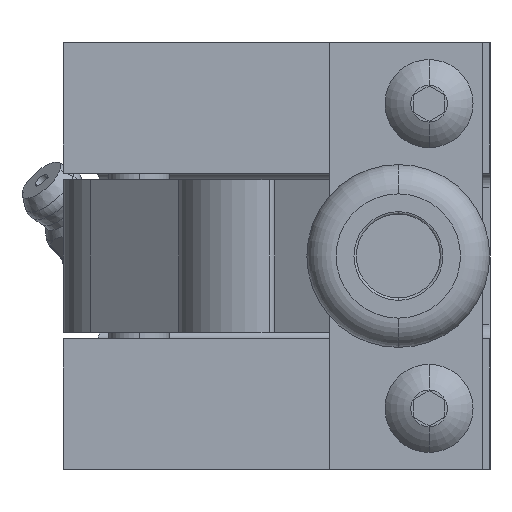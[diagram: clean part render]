
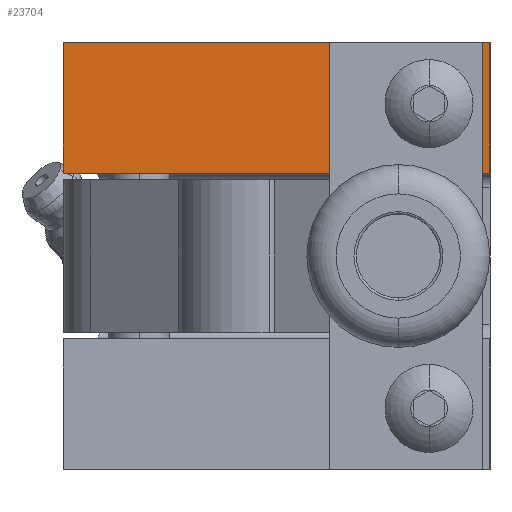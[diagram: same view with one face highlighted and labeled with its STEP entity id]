
A CAD part, left-side view. The second image highlights one B-rep face of the part: STEP entity #23704.
In plain terms, the highlighted planar face has unit normal (-1, 0, 0).
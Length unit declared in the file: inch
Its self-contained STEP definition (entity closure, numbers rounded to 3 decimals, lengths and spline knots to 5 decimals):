
#2780 = DIRECTION ( 'NONE',  ( 0., 0., 1. ) ) ;
#2781 = DIRECTION ( 'NONE',  ( -1., 0., 0. ) ) ;
#2782 = CARTESIAN_POINT ( 'NONE',  ( -1.37552, -0.60195, 0.60961 ) ) ;
#2783 = AXIS2_PLACEMENT_3D ( 'NONE', #2782, #2781, #2780 ) ;
#2784 = CIRCLE ( 'NONE', #2783, 0.0935 ) ;
#2806 = CARTESIAN_POINT ( 'NONE',  ( -1.37552, -0.60195, 0.70311 ) ) ;
#2807 = CARTESIAN_POINT ( 'NONE',  ( -1.37552, -0.60195, 0.51611 ) ) ;
#13006 = DIRECTION ( 'NONE',  ( 0., 0., 1. ) ) ;
#13007 = DIRECTION ( 'NONE',  ( -1., 0., 0. ) ) ;
#13009 = CARTESIAN_POINT ( 'NONE',  ( -1.37552, -0.85195, -0.89039 ) ) ;
#13010 = AXIS2_PLACEMENT_3D ( 'NONE', #13009, #13007, #13006 ) ;
#13011 = PLANE ( 'NONE',  #13010 ) ;
#13034 = AXIS2_PLACEMENT_3D ( 'NONE', #13153, #13152, #13151 ) ;
#13035 = CIRCLE ( 'NONE', #13034, 0.0935 ) ;
#13151 = DIRECTION ( 'NONE',  ( 0., 0., 1. ) ) ;
#13152 = DIRECTION ( 'NONE',  ( -1., 0., 0. ) ) ;
#13153 = CARTESIAN_POINT ( 'NONE',  ( -1.37552, -0.60195, 0.60961 ) ) ;
#13208 = FACE_OUTER_BOUND ( 'NONE', #23802, .T. ) ;
#13210 = FACE_BOUND ( 'NONE', #23678, .T. ) ;
#13327 = DIRECTION ( 'NONE',  ( 0., -1., 0. ) ) ;
#13328 = VECTOR ( 'NONE', #13327, 39.37008 ) ;
#13330 = CARTESIAN_POINT ( 'NONE',  ( -1.37552, -0.85195, 0.85961 ) ) ;
#13331 = LINE ( 'NONE', #13330, #13328 ) ;
#13340 = CARTESIAN_POINT ( 'NONE',  ( -1.37552, -0.85195, 0.85961 ) ) ;
#13343 = DIRECTION ( 'NONE',  ( 0., 0., 1. ) ) ;
#13345 = VECTOR ( 'NONE', #13343, 39.37008 ) ;
#13346 = CARTESIAN_POINT ( 'NONE',  ( -1.37552, -0.85195, -0.89039 ) ) ;
#13348 = LINE ( 'NONE', #13346, #13345 ) ;
#13834 = CARTESIAN_POINT ( 'NONE',  ( -1.37552, 0.89805, 0.85961 ) ) ;
#13965 = DIRECTION ( 'NONE',  ( 0., 0., 1. ) ) ;
#13966 = VECTOR ( 'NONE', #13965, 39.37008 ) ;
#13968 = CARTESIAN_POINT ( 'NONE',  ( -1.37552, 0.89805, -0.89039 ) ) ;
#13970 = LINE ( 'NONE', #13968, #13966 ) ;
#13992 = CARTESIAN_POINT ( 'NONE',  ( -1.37552, 0.89805, 0.32461 ) ) ;
#14011 = CARTESIAN_POINT ( 'NONE',  ( -1.37552, -0.85195, 0.32461 ) ) ;
#14013 = DIRECTION ( 'NONE',  ( 0., 1., 0. ) ) ;
#14014 = VECTOR ( 'NONE', #14013, 39.37008 ) ;
#14015 = CARTESIAN_POINT ( 'NONE',  ( -1.37552, -0.85195, 0.32461 ) ) ;
#14016 = LINE ( 'NONE', #14015, #14014 ) ;
#21272 = VERTEX_POINT ( 'NONE', #2807 ) ;
#21273 = VERTEX_POINT ( 'NONE', #2806 ) ;
#21284 = EDGE_CURVE ( 'NONE', #21272, #21273, #2784, .T. ) ;
#23677 = EDGE_CURVE ( 'NONE', #21273, #21272, #13035, .T. ) ;
#23678 = EDGE_LOOP ( 'NONE', ( #23705, #23801 ) ) ;
#23704 = ADVANCED_FACE ( 'NONE', ( #13210, #13208 ), #13011, .T. ) ;
#23705 = ORIENTED_EDGE ( 'NONE', *, *, #23677, .F. ) ;
#23754 = ORIENTED_EDGE ( 'NONE', *, *, #23755, .T. ) ;
#23755 = EDGE_CURVE ( 'NONE', #23805, #23756, #13348, .T. ) ;
#23756 = VERTEX_POINT ( 'NONE', #13340 ) ;
#23757 = ORIENTED_EDGE ( 'NONE', *, *, #23758, .F. ) ;
#23758 = EDGE_CURVE ( 'NONE', #23821, #23756, #13331, .T. ) ;
#23759 = ORIENTED_EDGE ( 'NONE', *, *, #23820, .F. ) ;
#23801 = ORIENTED_EDGE ( 'NONE', *, *, #21284, .F. ) ;
#23802 = EDGE_LOOP ( 'NONE', ( #23803, #23754, #23757, #23759 ) ) ;
#23803 = ORIENTED_EDGE ( 'NONE', *, *, #23804, .F. ) ;
#23804 = EDGE_CURVE ( 'NONE', #23805, #23813, #14016, .T. ) ;
#23805 = VERTEX_POINT ( 'NONE', #14011 ) ;
#23813 = VERTEX_POINT ( 'NONE', #13992 ) ;
#23820 = EDGE_CURVE ( 'NONE', #23813, #23821, #13970, .T. ) ;
#23821 = VERTEX_POINT ( 'NONE', #13834 ) ;
